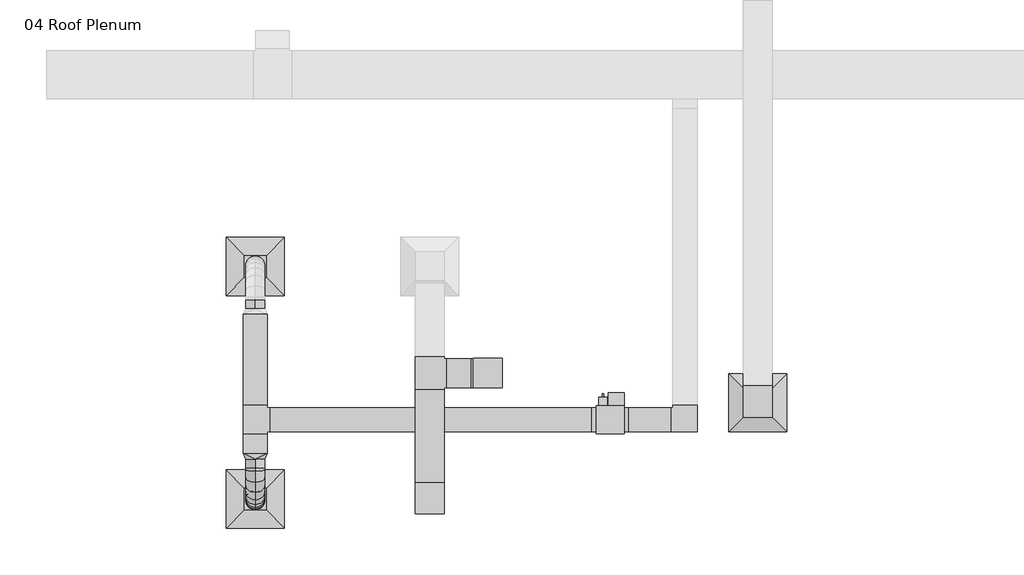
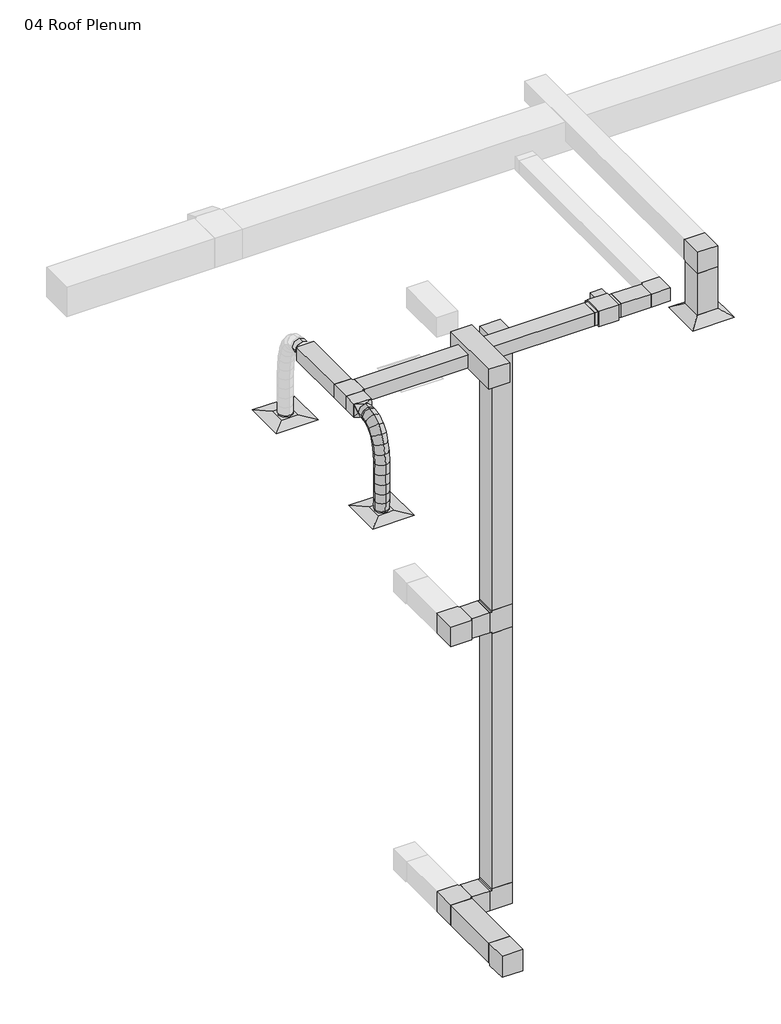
# One storey, part 1 of 9: 14 duct segments, 9 duct fittings, 3 air terminals, 1 proxy.
"""IFC4 building model written with IfcOpenShell, lengths in millimetres."""

from ifc_helpers import new_model, si_unit, point, frame, frame_2d, origin, place, context, project, spatial, polyline, circle_curve, ellipse_curve, trimmed, segment, composite_curve, outline, extrude, transform, mapped, element, save
from ifc_brep_helpers import plane_surface, cylinder_surface, advanced_brep
from components import return_diffuser_d30_returndiffuser_24x24_12x12_connection_ff543d60, supply_diffuser_rectangular_face_round_neck_d30_6390248a, supply_diffuser_rectangular_face_round_neck_d30_79c6f163, bcn6785_vav_d30_vav1_8c327968, rectangular_elbow_mitered_standard_f09b78ec, rectangular_elbow_mitered_standard_4ff1c4e8, rectangular_tee_standard_578867ac, rectangular_tee_standard_b316833c, rectangular_to_round_transition_angle_45_degree_e9430680

model = new_model("IFC4")

# Units and contexts
model_context = context("Model", 3, world=origin())
ifc_project = project(units=[si_unit("LENGTHUNIT", "METRE", prefix="MILLI")], contexts=[model_context])

# Site, building, storey
site = spatial("IfcSite", under=ifc_project)
building = spatial("IfcBuilding", under=site)
storey = spatial("IfcBuildingStorey", under=building, Name="04 Roof Plenum", Elevation=12192.0)

# Air terminals
placement = place(None, origin())
return_diffuser_d30_returndiffuser_24x24_12x12_connection_shape = return_diffuser_d30_returndiffuser_24x24_12x12_connection_ff543d60(model_context)
element("IfcAirTerminal", 1, ObjectType="Return Diffuser : D30_ReturnDiffuser_24x24 12x12 Connection", at=placement, inside=storey, context=model_context, shape_type="MappedRepresentation", body=[
    mapped(return_diffuser_d30_returndiffuser_24x24_12x12_connection_shape, transform((-9486.0382699, -4795.2453325, 12192.0), x_axis=(1.0, 0.0, 0.0), y_axis=(0.0, 1.0, 0.0), z_axis=(0.0, 0.0, 1.0))),
])
supply_diffuser_rectangular_face_round_neck_d30_shape = supply_diffuser_rectangular_face_round_neck_d30_6390248a(model_context)
element("IfcAirTerminal", 2, ObjectType="Supply Diffuser - Rectangular Face Round Neck : D30_SupplyDiffuser_24x24 8 Neck", at=placement, inside=storey, context=model_context, shape_type="MappedRepresentation", body=[
    mapped(supply_diffuser_rectangular_face_round_neck_d30_shape, transform((-14752.4292617, -5803.3078325, 11582.4), x_axis=(1.0, 0.0, 0.0), y_axis=(0.0, 1.0, 0.0), z_axis=(0.0, 0.0, 1.0))),
])
supply_diffuser_rectangular_face_round_neck_d30_2_shape = supply_diffuser_rectangular_face_round_neck_d30_79c6f163(model_context)
element("IfcAirTerminal", 3, ObjectType="Supply Diffuser - Rectangular Face Round Neck : D30_SupplyDiffuser_24x24 8 Neck", at=placement, inside=storey, context=model_context, shape_type="MappedRepresentation", body=[
    mapped(supply_diffuser_rectangular_face_round_neck_d30_2_shape, transform((-14752.4292617, -3364.9078325, 11582.4), x_axis=(1.0, 0.0, 0.0), y_axis=(0.0, 1.0, 0.0), z_axis=(0.0, 0.0, 1.0))),
])

# Proxy
bcn6785_vav_d30_vav1_shape = bcn6785_vav_d30_vav1_8c327968(model_context)
element("IfcBuildingElementProxy", 4, Name="BCN6785_VAV : D30_VAV1", ObjectType="BCN6785_VAV : D30_VAV1", at=placement, inside=storey, context=model_context, shape_type="MappedRepresentation", body=[
    mapped(bcn6785_vav_d30_vav1_shape, transform((-10885.1038818, -4973.0453325, 12757.15), x_axis=(-1.0, 0.0, 0.0), y_axis=(0.0, -1.0, 0.0), z_axis=(0.0, 0.0, 1.0))),
])

# Duct fittings
rectangular_elbow_mitered_standard_shape = rectangular_elbow_mitered_standard_f09b78ec(model_context)
element("IfcDuctFitting", 5, ObjectType="Rectangular Elbow - Mitered : Standard", at=placement, inside=storey, context=model_context, shape_type="MappedRepresentation", body=[
    mapped(rectangular_elbow_mitered_standard_shape, transform((-10246.0481813, -4973.0453325, 12877.8), x_axis=(1.0, 0.0, 0.0), y_axis=(0.0, 1.0, 0.0), z_axis=(0.0, 0.0, 1.0))),
])
rectangular_elbow_mitered_standard_2_shape = rectangular_elbow_mitered_standard_4ff1c4e8(model_context)
element("IfcDuctFitting", 6, ObjectType="Rectangular Elbow - Mitered : Standard", at=placement, inside=storey, context=model_context, shape_type="MappedRepresentation", body=[
    mapped(rectangular_elbow_mitered_standard_2_shape, transform((-9486.0382699, -4795.2453325, 13112.75), x_axis=(0.0, 0.0, 1.0), y_axis=(0.0, 1.0, 0.0), z_axis=(-1.0, 0.0, 0.0))),
])
element("IfcDuctFitting", 7, ObjectType="Rectangular Elbow - Mitered : Standard", at=placement, inside=storey, context=model_context, shape_type="MappedRepresentation", body=[
    mapped(rectangular_elbow_mitered_standard_2_shape, transform((-12923.6292617, -5803.3078325, 4038.6), x_axis=(0.0, -1.0, 0.0), y_axis=(0.0, 0.0, -1.0), z_axis=(1.0, 0.0, 0.0))),
])
element("IfcDuctFitting", 8, ObjectType="Rectangular Elbow - Mitered : Standard", at=placement, inside=storey, context=model_context, shape_type="MappedRepresentation", body=[
    mapped(rectangular_elbow_mitered_standard_2_shape, transform((-12314.0292617, -4482.5078325, 4038.6), x_axis=(1.0, 0.0, 0.0), y_axis=(0.0, 0.0, 1.0), z_axis=(0.0, -1.0, 0.0))),
])
rectangular_tee_standard_shape = rectangular_tee_standard_578867ac(model_context)
element("IfcDuctFitting", 9, ObjectType="Rectangular Tee : Standard", at=placement, inside=storey, context=model_context, shape_type="MappedRepresentation", body=[
    mapped(rectangular_tee_standard_shape, transform((-12923.6292617, -4482.5078325, 4038.6), x_axis=(0.0, 1.0, 0.0), y_axis=(-1.0, 0.0, 0.0), z_axis=(0.0, 0.0, 1.0))),
])
element("IfcDuctFitting", 10, ObjectType="Rectangular Tee : Standard", at=placement, inside=storey, context=model_context, shape_type="MappedRepresentation", body=[
    mapped(rectangular_tee_standard_shape, transform((-12923.6292617, -4482.5078325, 8343.9), x_axis=(0.0, 1.0, 0.0), y_axis=(-1.0, 0.0, 0.0), z_axis=(0.0, 0.0, 1.0))),
])
element("IfcDuctFitting", 11, ObjectType="Rectangular Tee : Standard", at=placement, inside=storey, context=model_context, shape_type="MappedRepresentation", body=[
    mapped(rectangular_tee_standard_shape, transform((-12314.0292617, -4482.5078325, 8343.9), x_axis=(0.0, 0.0, 1.0), y_axis=(1.0, 0.0, 0.0), z_axis=(0.0, 1.0, 0.0))),
])
rectangular_tee_standard_2_shape = rectangular_tee_standard_b316833c(model_context)
element("IfcDuctFitting", 12, ObjectType="Rectangular Tee : Standard", at=placement, inside=storey, context=model_context, shape_type="MappedRepresentation", body=[
    mapped(rectangular_tee_standard_2_shape, transform((-14752.2538818, -4973.0453325, 12877.8), x_axis=(0.0, 1.0, 0.0), y_axis=(-1.0, 0.0, 0.0), z_axis=(0.0, 0.0, 1.0))),
])
rectangular_to_round_transition_angle_45_degree_shape = rectangular_to_round_transition_angle_45_degree_e9430680(model_context)
element("IfcDuctFitting", 13, ObjectType="Rectangular to Round Transition - Angle : 45 Degree", at=placement, inside=storey, context=model_context, shape_type="MappedRepresentation", body=[
    mapped(rectangular_to_round_transition_angle_45_degree_shape, transform((-14752.2538818, -5325.9690683, 12877.8), x_axis=(0.0, -1.0, 0.0), y_axis=(1.0, 0.0, 0.0), z_axis=(0.0, 0.0, 1.0))),
])

# Duct segments
element("IfcDuctSegment", 14, ObjectType="Flex - Round", at=placement, inside=storey, context=model_context, shape_type="AdvancedBrep", body=[
    advanced_brep(
    [(-14650.6538818, -5478.3690683, 12877.8), (-14752.2538818, -5478.3690683, 12776.2), (-14853.8538818, -5478.3690683, 12877.8), (-14752.2538818, -5478.3690683, 12979.4), (-14650.6538818, -5496.8874374, 12877.8), (-14752.2538818, -5485.5715, 12776.2), (-14853.8538818, -5496.8826417, 12877.8), (-14752.2538818, -5508.1985791, 12979.4), (-14650.8292636, -5803.3275846, 11636.3713618), (-14752.4490712, -5904.8939325, 11634.6945569), (-14854.0292597, -5803.2880804, 11636.3786382), (-14752.4094521, -5701.7217325, 11638.0554431), (-14650.6579668, -5582.357861, 12858.5261085), (-14752.2565507, -5541.414085, 12763.6072939), (-14853.8579662, -5582.3408154, 12858.5288709), (-14752.2593823, -5623.2845914, 12953.4476855), (-14650.6691677, -5662.8907133, 12804.309572), (-14752.2634369, -5590.9244035, 12730.2758284), (-14853.8691654, -5662.8614121, 12804.3205851), (-14752.2748962, -5734.8277219, 12878.3543287), (-14650.6859029, -5722.8223549, 12720.5603195), (-14752.2751305, -5632.8012975, 12671.7565141), (-14853.8858987, -5722.7864412, 12720.5805731), (-14752.2966711, -5812.8074985, 12769.3843786), (-14650.7065906, -5765.0086639, 12612.6880611), (-14752.2920943, -5667.3937586, 12583.3020607), (-14853.9065853, -5764.9703373, 12612.7144845), (-14752.3210816, -5862.5852425, 12642.100485), (-14650.7296499, -5792.3060222, 12486.1004854), (-14752.3127602, -5691.8579176, 12469.8530398), (-14853.929644, -5792.2670311, 12486.1299901), (-14752.3465337, -5892.7151358, 12502.3774356), (-14650.7534995, -5807.5701681, 12346.2049028), (-14752.3351346, -5706.1778652, 12338.6110146), (-14853.9534935, -5807.5310972, 12346.2351388), (-14752.3718584, -5908.9234001, 12353.8290271), (-14650.7765584, -5813.6564861, 12198.4087702), (-14752.3573202, -5712.0336894, 12196.4120439), (-14853.9765525, -5813.6174636, 12198.4378334), (-14752.3957907, -5915.2402603, 12200.4345597), (-14650.7972453, -5813.4202232, 12048.1197391), (-14752.3775438, -5711.8027181, 12049.4890559), (-14853.9972399, -5813.3811959, 12048.1457819), (-14752.4169415, -5914.9987011, 12046.7764651), (-14650.8139793, -5809.7165725, 11900.7456667), (-14752.3941082, -5708.1365965, 11903.6083267), (-14854.0139745, -5809.6774139, 11900.7664864), (-14752.4338455, -5911.2573899, 11897.9038265), (-14650.825179, -5805.4006916, 11761.694714), (-14752.4053434, -5703.8070551, 11764.1172552), (-14854.0251749, -5805.3612726, 11761.7071456), (-14752.4450105, -5906.9549091, 11759.2846045)],
    [
        (0, 1, circle_curve(frame((-14752.2538818, -5478.3690683, 12877.8), z_axis=(0.0, 1.0, 0.0), x_axis=(1.0, 0.0, 0.0)), 101.6)),
        (1, 2, circle_curve(frame((-14752.2538818, -5478.3690683, 12877.8), z_axis=(0.0, 1.0, 0.0), x_axis=(1.0, 0.0, 0.0)), 101.6)),
        (2, 3, circle_curve(frame((-14752.2538818, -5478.3690683, 12877.8), z_axis=(0.0, 1.0, 0.0), x_axis=(1.0, 0.0, 0.0)), 101.6)),
        (3, 0, circle_curve(frame((-14752.2538818, -5478.3690683, 12877.8), z_axis=(0.0, 1.0, 0.0), x_axis=(1.0, 0.0, 0.0)), 101.6)),
        (0, 4),
        (4, 5, ellipse_curve(frame((-14752.2538818, -5496.8850395, 12877.8), z_axis=(2.3455999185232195e-05, 0.993857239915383, 0.11066971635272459), x_axis=(-0.00021064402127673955, 0.1106697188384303, -0.9938572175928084)), 102.2279618, 101.6)),
        (5, 1),
        (5, 6, ellipse_curve(frame((-14752.2538818, -5496.8850395, 12877.8), z_axis=(2.3455999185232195e-05, 0.993857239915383, 0.11066971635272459), x_axis=(-0.00021064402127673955, 0.1106697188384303, -0.9938572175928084)), 102.2279618, 101.6)),
        (6, 2),
        (6, 7, ellipse_curve(frame((-14752.2538818, -5496.8850395, 12877.8), z_axis=(2.3455999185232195e-05, 0.993857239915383, 0.11066971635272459), x_axis=(-0.00021064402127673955, 0.1106697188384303, -0.9938572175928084)), 102.2279618, 101.6)),
        (7, 3),
        (7, 4, ellipse_curve(frame((-14752.2538818, -5496.8850395, 12877.8), z_axis=(2.3455999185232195e-05, 0.993857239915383, 0.11066971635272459), x_axis=(-0.00021064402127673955, 0.1106697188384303, -0.9938572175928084)), 102.2279618, 101.6)),
        (8, 9, circle_curve(frame((-14752.4292617, -5803.3078325, 11636.375), z_axis=(-3.258840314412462e-05, 0.01653980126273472, -0.9998632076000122), x_axis=(0.9999999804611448, -0.00019441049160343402, -3.580881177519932e-05)), 101.6)),
        (9, 10, circle_curve(frame((-14752.4292617, -5803.3078325, 11636.375), z_axis=(-3.258840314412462e-05, 0.01653980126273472, -0.9998632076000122), x_axis=(0.9999999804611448, -0.00019441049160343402, -3.580881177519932e-05)), 101.6)),
        (10, 11, circle_curve(frame((-14752.4292617, -5803.3078325, 11636.375), z_axis=(-3.258840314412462e-05, 0.01653980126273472, -0.9998632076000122), x_axis=(0.9999999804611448, -0.00019441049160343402, -3.580881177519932e-05)), 101.6)),
        (11, 8, circle_curve(frame((-14752.4292617, -5803.3078325, 11636.375), z_axis=(-3.258840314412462e-05, 0.01653980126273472, -0.9998632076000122), x_axis=(0.9999999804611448, -0.00019441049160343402, -3.580881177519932e-05)), 101.6)),
        (4, 12),
        (12, 13, ellipse_curve(frame((-14752.2579665, -5582.3493382, 12858.5274897), z_axis=(8.241148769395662e-05, 0.9182488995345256, 0.39600372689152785), x_axis=(-0.00018651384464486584, 0.39600373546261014, -0.9182488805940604)), 103.3708786, 101.6)),
        (13, 5),
        (13, 14, ellipse_curve(frame((-14752.2579665, -5582.3493382, 12858.5274897), z_axis=(8.241148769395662e-05, 0.9182488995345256, 0.39600372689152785), x_axis=(-0.00018651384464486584, 0.39600373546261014, -0.9182488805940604)), 103.3708786, 101.6)),
        (14, 6),
        (14, 15, ellipse_curve(frame((-14752.2579665, -5582.3493382, 12858.5274897), z_axis=(8.241148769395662e-05, 0.9182488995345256, 0.39600372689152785), x_axis=(-0.00018651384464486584, 0.39600373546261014, -0.9182488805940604)), 103.3708786, 101.6)),
        (15, 7),
        (15, 12, ellipse_curve(frame((-14752.2579665, -5582.3493382, 12858.5274897), z_axis=(8.241148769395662e-05, 0.9182488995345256, 0.39600372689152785), x_axis=(-0.00018651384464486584, 0.39600373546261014, -0.9182488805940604)), 103.3708786, 101.6)),
        (12, 16),
        (16, 17, ellipse_curve(frame((-14752.2691666, -5662.8760627, 12804.3150785), z_axis=(0.00014118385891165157, 0.7171446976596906, 0.6969242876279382), x_axis=(-0.00013265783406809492, 0.696924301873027, -0.717144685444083)), 103.2417158, 101.6)),
        (17, 13),
        (17, 18, ellipse_curve(frame((-14752.2691666, -5662.8760627, 12804.3150785), z_axis=(0.00014118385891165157, 0.7171446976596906, 0.6969242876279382), x_axis=(-0.00013265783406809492, 0.696924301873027, -0.717144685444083)), 103.2417158, 101.6)),
        (18, 14),
        (18, 19, ellipse_curve(frame((-14752.2691666, -5662.8760627, 12804.3150785), z_axis=(0.00014118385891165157, 0.7171446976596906, 0.6969242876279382), x_axis=(-0.00013265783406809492, 0.696924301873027, -0.717144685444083)), 103.2417158, 101.6)),
        (19, 15),
        (19, 16, ellipse_curve(frame((-14752.2691666, -5662.8760627, 12804.3150785), z_axis=(0.00014118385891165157, 0.7171446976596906, 0.6969242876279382), x_axis=(-0.00013265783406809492, 0.696924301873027, -0.717144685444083)), 103.2417158, 101.6)),
        (16, 20),
        (20, 21, ellipse_curve(frame((-14752.2859008, -5722.804398, 12720.5704463), z_axis=(0.0001718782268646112, 0.4767531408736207, 0.8790372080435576), x_axis=(-6.502204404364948e-05, 0.8790372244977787, -0.4767531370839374)), 102.3882718, 101.6)),
        (21, 17),
        (21, 22, ellipse_curve(frame((-14752.2859008, -5722.804398, 12720.5704463), z_axis=(0.0001718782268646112, 0.4767531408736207, 0.8790372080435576), x_axis=(-6.502204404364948e-05, 0.8790372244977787, -0.4767531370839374)), 102.3882718, 101.6)),
        (22, 18),
        (22, 23, ellipse_curve(frame((-14752.2859008, -5722.804398, 12720.5704463), z_axis=(0.0001718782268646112, 0.4767531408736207, 0.8790372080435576), x_axis=(-6.502204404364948e-05, 0.8790372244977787, -0.4767531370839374)), 102.3882718, 101.6)),
        (23, 19),
        (23, 20, ellipse_curve(frame((-14752.2859008, -5722.804398, 12720.5704463), z_axis=(0.0001718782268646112, 0.4767531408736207, 0.8790372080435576), x_axis=(-6.502204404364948e-05, 0.8790372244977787, -0.4767531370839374)), 102.3882718, 101.6)),
        (20, 24),
        (24, 25, ellipse_curve(frame((-14752.306588, -5764.9895006, 12612.7012728), z_axis=(0.00017891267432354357, 0.28843217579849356, 0.9575003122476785), x_axis=(3.3733718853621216e-06, 0.9575003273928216, -0.2884321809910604)), 101.9276348, 101.6)),
        (25, 21),
        (25, 26, ellipse_curve(frame((-14752.306588, -5764.9895006, 12612.7012728), z_axis=(0.00017891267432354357, 0.28843217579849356, 0.9575003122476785), x_axis=(3.3733718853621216e-06, 0.9575003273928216, -0.2884321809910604)), 101.9276348, 101.6)),
        (26, 22),
        (26, 27, ellipse_curve(frame((-14752.306588, -5764.9895006, 12612.7012728), z_axis=(0.00017891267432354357, 0.28843217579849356, 0.9575003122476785), x_axis=(3.3733718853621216e-06, 0.9575003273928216, -0.2884321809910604)), 101.9276348, 101.6)),
        (27, 23),
        (27, 24, ellipse_curve(frame((-14752.306588, -5764.9895006, 12612.7012728), z_axis=(0.00017891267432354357, 0.28843217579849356, 0.9575003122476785), x_axis=(3.3733718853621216e-06, 0.9575003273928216, -0.2884321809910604)), 101.9276348, 101.6)),
        (24, 28),
        (28, 29, ellipse_curve(frame((-14752.3296469, -5792.2865267, 12486.1152377), z_axis=(0.00017400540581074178, 0.15984583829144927, 0.9871419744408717), x_axis=(8.288209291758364e-05, 0.987141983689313, -0.1598458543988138)), 101.7367431, 101.6)),
        (29, 25),
        (29, 30, ellipse_curve(frame((-14752.3296469, -5792.2865267, 12486.1152377), z_axis=(0.00017400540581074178, 0.15984583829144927, 0.9871419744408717), x_axis=(8.288209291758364e-05, 0.987141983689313, -0.1598458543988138)), 101.7367431, 101.6)),
        (30, 26),
        (30, 31, ellipse_curve(frame((-14752.3296469, -5792.2865267, 12486.1152377), z_axis=(0.00017400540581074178, 0.15984583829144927, 0.9871419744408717), x_axis=(8.288209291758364e-05, 0.987141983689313, -0.1598458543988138)), 101.7367431, 101.6)),
        (31, 27),
        (31, 28, ellipse_curve(frame((-14752.3296469, -5792.2865267, 12486.1152377), z_axis=(0.00017400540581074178, 0.15984583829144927, 0.9871419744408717), x_axis=(8.288209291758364e-05, 0.987141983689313, -0.1598458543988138)), 101.7367431, 101.6)),
        (28, 32),
        (32, 33, ellipse_curve(frame((-14752.3534965, -5807.5506327, 12346.2200208), z_axis=(0.00016277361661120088, 0.07484908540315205, 0.9971948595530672), x_axis=(0.00020129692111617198, 0.9971948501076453, -0.07484911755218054)), 101.6579327, 101.6)),
        (33, 29),
        (33, 34, ellipse_curve(frame((-14752.3534965, -5807.5506327, 12346.2200208), z_axis=(0.00016277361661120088, 0.07484908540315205, 0.9971948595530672), x_axis=(0.00020129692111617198, 0.9971948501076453, -0.07484911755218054)), 101.6579327, 101.6)),
        (34, 30),
        (34, 35, ellipse_curve(frame((-14752.3534965, -5807.5506327, 12346.2200208), z_axis=(0.00016277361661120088, 0.07484908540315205, 0.9971948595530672), x_axis=(0.00020129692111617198, 0.9971948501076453, -0.07484911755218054)), 101.6579327, 101.6)),
        (35, 31),
        (35, 32, ellipse_curve(frame((-14752.3534965, -5807.5506327, 12346.2200208), z_axis=(0.00016277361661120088, 0.07484908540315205, 0.9971948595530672), x_axis=(0.00020129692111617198, 0.9971948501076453, -0.07484911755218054)), 101.6579327, 101.6)),
        (32, 36),
        (36, 37, ellipse_curve(frame((-14752.3765555, -5813.6369748, 12198.4233018), z_axis=(0.00014680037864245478, 0.019791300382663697, 0.9998041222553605), x_axis=(0.0004268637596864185, 0.9998040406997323, -0.019791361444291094)), 101.623192, 101.6)),
        (37, 33),
        (37, 38, ellipse_curve(frame((-14752.3765555, -5813.6369748, 12198.4233018), z_axis=(0.00014680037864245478, 0.019791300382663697, 0.9998041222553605), x_axis=(0.0004268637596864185, 0.9998040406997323, -0.019791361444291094)), 101.623192, 101.6)),
        (38, 34),
        (38, 39, ellipse_curve(frame((-14752.3765555, -5813.6369748, 12198.4233018), z_axis=(0.00014680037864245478, 0.019791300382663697, 0.9998041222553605), x_axis=(0.0004268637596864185, 0.9998040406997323, -0.019791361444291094)), 101.623192, 101.6)),
        (39, 35),
        (39, 36, ellipse_curve(frame((-14752.3765555, -5813.6369748, 12198.4233018), z_axis=(0.00014680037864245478, 0.019791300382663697, 0.9998041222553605), x_axis=(0.0004268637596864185, 0.9998040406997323, -0.019791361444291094)), 101.623192, 101.6)),
        (36, 40),
        (40, 41, ellipse_curve(frame((-14752.3972426, -5813.4007096, 12048.1327605), z_axis=(0.00012558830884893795, -0.013348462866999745, 0.999910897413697), x_axis=(0.0010247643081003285, 0.9999103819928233, 0.013348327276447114)), 101.607046, 101.6)),
        (41, 37),
        (41, 42, ellipse_curve(frame((-14752.3972426, -5813.4007096, 12048.1327605), z_axis=(0.00012558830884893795, -0.013348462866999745, 0.999910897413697), x_axis=(0.0010247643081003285, 0.9999103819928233, 0.013348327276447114)), 101.607046, 101.6)),
        (42, 38),
        (42, 43, ellipse_curve(frame((-14752.3972426, -5813.4007096, 12048.1327605), z_axis=(0.00012558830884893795, -0.013348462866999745, 0.999910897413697), x_axis=(0.0010247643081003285, 0.9999103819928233, 0.013348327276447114)), 101.607046, 101.6)),
        (43, 39),
        (43, 40, ellipse_curve(frame((-14752.3972426, -5813.4007096, 12048.1327605), z_axis=(0.00012558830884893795, -0.013348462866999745, 0.999910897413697), x_axis=(0.0010247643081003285, 0.9999103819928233, 0.013348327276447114)), 101.607046, 101.6)),
        (40, 44),
        (44, 45, ellipse_curve(frame((-14752.4139769, -5809.6969932, 11900.7560766), z_axis=(9.700878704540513e-05, -0.028073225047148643, 0.9996058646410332), x_axis=(0.005591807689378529, 0.9995902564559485, 0.028072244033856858)), 101.6004425, 101.6)),
        (45, 41),
        (45, 46, ellipse_curve(frame((-14752.4139769, -5809.6969932, 11900.7560766), z_axis=(9.700878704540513e-05, -0.028073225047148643, 0.9996058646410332), x_axis=(0.005591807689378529, 0.9995902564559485, 0.028072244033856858)), 101.6004425, 101.6)),
        (46, 42),
        (46, 47, ellipse_curve(frame((-14752.4139769, -5809.6969932, 11900.7560766), z_axis=(9.700878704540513e-05, -0.028073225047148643, 0.9996058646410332), x_axis=(0.005591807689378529, 0.9995902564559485, 0.028072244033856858)), 101.6004425, 101.6)),
        (47, 43),
        (47, 44, ellipse_curve(frame((-14752.4139769, -5809.6969932, 11900.7560766), z_axis=(9.700878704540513e-05, -0.028073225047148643, 0.9996058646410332), x_axis=(0.005591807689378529, 0.9995902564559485, 0.028072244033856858)), 101.6004425, 101.6)),
        (44, 48),
        (48, 49, ellipse_curve(frame((-14752.4251769, -5805.3809821, 11761.7009298), z_axis=(5.654833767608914e-05, -0.023782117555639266, 0.9997171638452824), x_axis=(0.0033074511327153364, -0.9997116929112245, -0.02378217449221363)), 101.6026657, 101.6)),
        (49, 45),
        (49, 50, ellipse_curve(frame((-14752.4251769, -5805.3809821, 11761.7009298), z_axis=(5.654833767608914e-05, -0.023782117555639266, 0.9997171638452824), x_axis=(0.0033074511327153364, -0.9997116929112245, -0.02378217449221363)), 101.6026657, 101.6)),
        (50, 46),
        (50, 51, ellipse_curve(frame((-14752.4251769, -5805.3809821, 11761.7009298), z_axis=(5.654833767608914e-05, -0.023782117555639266, 0.9997171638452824), x_axis=(0.0033074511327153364, -0.9997116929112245, -0.02378217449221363)), 101.6026657, 101.6)),
        (51, 47),
        (51, 48, ellipse_curve(frame((-14752.4251769, -5805.3809821, 11761.7009298), z_axis=(5.654833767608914e-05, -0.023782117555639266, 0.9997171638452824), x_axis=(0.0033074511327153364, -0.9997116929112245, -0.02378217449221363)), 101.6026657, 101.6)),
        (48, 8),
        (11, 49),
        (10, 50),
        (9, 51),
    ],
    [
        plane_surface(frame((-14853.8538818, -5478.3690683, 12877.8), z_axis=(0.0, 1.0, 0.0), x_axis=(0.0, 0.0, -1.0))),
        cylinder_surface(frame((-14752.2538818, -5478.3690683, 12877.8), z_axis=(0.0, 1.0, 0.0), x_axis=(1.0, 0.0, 0.0)), 101.6),
        plane_surface(frame((-14752.4292617, -5701.7217306, 11638.0554438), z_axis=(-3.2588403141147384e-05, 0.016539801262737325, -0.9998632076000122), x_axis=(0.999999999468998, 5.390057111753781e-07, -3.2583945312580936e-05))),
        cylinder_surface(frame((-14752.2538818, -5496.8850395, 12877.8), z_axis=(4.66238292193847e-05, 0.9755044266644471, 0.21997979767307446), x_axis=(0.9999999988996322, -4.66238292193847e-05, -5.191737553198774e-06)), 101.6),
        cylinder_surface(frame((-14752.2579665, -5582.3493382, 12858.5274897), z_axis=(0.00011537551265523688, 0.8295317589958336, 0.5584595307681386), x_axis=(0.9999999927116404, -0.00011557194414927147, -3.4926279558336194e-05)), 101.6),
        cylinder_surface(frame((-14752.2691666, -5662.8760627, 12804.3150785), z_axis=(0.0001625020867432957, 0.5819500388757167, 0.8132245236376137), x_axis=(0.9999999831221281, -0.00016428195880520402, -8.226288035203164e-05)), 101.6),
        cylinder_surface(frame((-14752.2859008, -5722.804398, 12720.5704463), z_axis=(0.00017860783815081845, 0.36421534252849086, 0.9313147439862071), x_axis=(0.999999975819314, -0.00018453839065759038, -0.00011961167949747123)), 101.6),
        cylinder_surface(frame((-14752.306588, -5764.9895006, 12612.7012728), z_axis=(0.00017806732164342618, 0.21079474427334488, 0.9775303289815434), x_axis=(0.9999999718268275, -0.000190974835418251, -0.0001409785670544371)), 101.6),
        cylinder_surface(frame((-14752.3296469, -5792.2865267, 12486.1152377), z_axis=(0.0001694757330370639, 0.10846723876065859, 0.9941000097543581), x_axis=(0.9999999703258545, -0.0001923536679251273, -0.00014949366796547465)), 101.6),
        cylinder_surface(frame((-14752.3534965, -5807.5506327, 12346.2200208), z_axis=(0.00015588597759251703, 0.04114562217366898, 0.9991531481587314), x_axis=(0.999999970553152, -0.00019224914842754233, -0.00014810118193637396)), 101.6),
        cylinder_surface(frame((-14752.3765555, -5813.6369748, 12198.4233018), z_axis=(0.00013764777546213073, -0.0015720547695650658, 0.9999987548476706), x_axis=(0.9999999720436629, -0.00019204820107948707, -0.00013794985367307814)), 101.6),
        cylinder_surface(frame((-14752.3972426, -5813.4007096, 12048.1327605), z_axis=(0.00011351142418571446, -0.02512301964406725, 0.9996843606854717), x_axis=(0.9999999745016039, -0.0001923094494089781, -0.00011838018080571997)), 101.6),
        cylinder_surface(frame((-14752.4139769, -5809.6969932, 11900.7560766), z_axis=(8.050530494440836e-05, -0.03102318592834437, 0.9995186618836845), x_axis=(0.9999999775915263, -0.0001932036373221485, -8.654075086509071e-05)), 101.6),
        cylinder_surface(frame((-14752.4251769, -5805.3809821, 11761.7009298), z_axis=(3.258840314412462e-05, -0.01653980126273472, 0.9998632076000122), x_axis=(0.9999999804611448, -0.00019441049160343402, -3.580881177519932e-05)), 101.6),
    ],
    [
        (0, [[1, 2, 3, 4]]),
        (1, [[-1, 5, 6, 7]]),
        (1, [[-2, -7, 8, 9]]),
        (1, [[-3, -9, 10, 11]]),
        (1, [[-4, -11, 12, -5]]),
        (2, [[13, 14, 15, 16]]),
        (3, [[-6, 17, 18, 19]]),
        (3, [[-8, -19, 20, 21]]),
        (3, [[-10, -21, 22, 23]]),
        (3, [[-12, -23, 24, -17]]),
        (4, [[-18, 25, 26, 27]]),
        (4, [[-20, -27, 28, 29]]),
        (4, [[-22, -29, 30, 31]]),
        (4, [[-24, -31, 32, -25]]),
        (5, [[-26, 33, 34, 35]]),
        (5, [[-28, -35, 36, 37]]),
        (5, [[-30, -37, 38, 39]]),
        (5, [[-32, -39, 40, -33]]),
        (6, [[-34, 41, 42, 43]]),
        (6, [[-36, -43, 44, 45]]),
        (6, [[-38, -45, 46, 47]]),
        (6, [[-40, -47, 48, -41]]),
        (7, [[-42, 49, 50, 51]]),
        (7, [[-44, -51, 52, 53]]),
        (7, [[-46, -53, 54, 55]]),
        (7, [[-48, -55, 56, -49]]),
        (8, [[-50, 57, 58, 59]]),
        (8, [[-52, -59, 60, 61]]),
        (8, [[-54, -61, 62, 63]]),
        (8, [[-56, -63, 64, -57]]),
        (9, [[-58, 65, 66, 67]]),
        (9, [[-60, -67, 68, 69]]),
        (9, [[-62, -69, 70, 71]]),
        (9, [[-64, -71, 72, -65]]),
        (10, [[-66, 73, 74, 75]]),
        (10, [[-68, -75, 76, 77]]),
        (10, [[-70, -77, 78, 79]]),
        (10, [[-72, -79, 80, -73]]),
        (11, [[-74, 81, 82, 83]]),
        (11, [[-76, -83, 84, 85]]),
        (11, [[-78, -85, 86, 87]]),
        (11, [[-80, -87, 88, -81]]),
        (12, [[-82, 89, 90, 91]]),
        (12, [[-84, -91, 92, 93]]),
        (12, [[-86, -93, 94, 95]]),
        (12, [[-88, -95, 96, -89]]),
        (13, [[-90, 97, -16, 98]]),
        (13, [[-92, -98, -15, 99]]),
        (13, [[-94, -99, -14, 100]]),
        (13, [[-96, -100, -13, -97]]),
    ],
),
])
element("IfcDuctSegment", 15, ObjectType="Mitered Elbows / Tees", at=placement, inside=storey, context=model_context, shape_type="SweptSolid", body=[
    extrude(outline(polyline([(-10398.4481813, -4846.0453325), (-10398.4481813, -5100.0453325), (-10834.3038818, -5100.0453325), (-10834.3038818, -4846.0453325), (-10398.4481813, -4846.0453325)])), frame((0.0, 0.0, 12776.2), z_axis=(0.0, 0.0, 1.0), x_axis=(1.0, 0.0, 0.0)), (0.0, 0.0, 1.0), 203.2),
])
element("IfcDuctSegment", 16, ObjectType="Mitered Elbows / Tees", at=placement, inside=storey, context=model_context, shape_type="SweptSolid", body=[
    extrude(outline(polyline([(-11228.0038818, -4846.0453325), (-11228.0038818, -5100.0453325), (-14599.8538818, -5100.0453325), (-14599.8538818, -4846.0453325), (-11228.0038818, -4846.0453325)])), frame((0.0, 0.0, 12776.2), z_axis=(0.0, 0.0, 1.0), x_axis=(1.0, 0.0, 0.0)), (0.0, 0.0, 1.0), 203.2),
])
element("IfcDuctSegment", 17, ObjectType="Mitered Elbows / Tees", at=placement, inside=storey, context=model_context, shape_type="SweptSolid", body=[
    extrude(outline(polyline([(-14879.2538818, -5125.4453325), (-14625.2538818, -5125.4453325), (-14625.2538818, -5325.9690683), (-14879.2538818, -5325.9690683), (-14879.2538818, -5125.4453325)])), frame((0.0, 0.0, 12776.2), z_axis=(0.0, 0.0, 1.0), x_axis=(1.0, 0.0, 0.0)), (0.0, 0.0, 1.0), 203.2),
])
element("IfcDuctSegment", 18, ObjectType="Mitered Elbows / Tees", at=placement, inside=storey, context=model_context, shape_type="SweptSolid", body=[
    extrude(outline(polyline([(-14879.2538818, -3867.6465968), (-14625.2538818, -3867.6465968), (-14625.2538818, -4820.6453325), (-14879.2538818, -4820.6453325), (-14879.2538818, -3867.6465968)])), frame((0.0, 0.0, 12776.2), z_axis=(0.0, 0.0, 1.0), x_axis=(1.0, 0.0, 0.0)), (0.0, 0.0, 1.0), 203.2),
])
element("IfcDuctSegment", 19, ObjectType="Mitered Elbows / Tees", at=placement, inside=storey, context=model_context, shape_type="SweptSolid", body=[
    extrude(outline(polyline([(-9638.4382699, -4642.8453325), (-9333.6382699, -4642.8453325), (-9333.6382699, -4947.6453325), (-9638.4382699, -4947.6453325), (-9638.4382699, -4642.8453325)])), frame((0.0, 0.0, 12293.6), z_axis=(0.0, 0.0, 1.0), x_axis=(1.0, 0.0, 0.0)), (0.0, 0.0, 1.0), 641.35),
])
element("IfcDuctSegment", 20, ObjectType="Mitered Elbows / Tees", at=placement, inside=storey, context=model_context, shape_type="SweptSolid", body=[
    extrude(outline(polyline([(-13076.0292617, -4660.3078325), (-12771.2292617, -4660.3078325), (-12771.2292617, -5625.5078325), (-13076.0292617, -5625.5078325), (-13076.0292617, -4660.3078325)])), frame((0.0, 0.0, 12763.5), z_axis=(0.0, 0.0, 1.0), x_axis=(1.0, 0.0, 0.0)), (0.0, 0.0, 1.0), 304.8),
])
element("IfcDuctSegment", 21, ObjectType="Mitered Elbows / Tees", at=placement, inside=storey, context=model_context, shape_type="SweptSolid", body=[
    extrude(outline(polyline([(-12466.4292617, -4330.1078325), (-12161.6292617, -4330.1078325), (-12161.6292617, -4634.9078325), (-12466.4292617, -4634.9078325), (-12466.4292617, -4330.1078325)])), frame((0.0, 0.0, 8521.7), z_axis=(0.0, 0.0, 1.0), x_axis=(1.0, 0.0, 0.0)), (0.0, 0.0, 1.0), 4216.4),
])
element("IfcDuctSegment", 22, ObjectType="Mitered Elbows / Tees", at=placement, inside=storey, context=model_context, shape_type="SweptSolid", body=[
    extrude(outline(polyline([(-12466.4292617, -4634.9078325), (-12466.4292617, -4330.1078325), (-12161.6292617, -4330.1078325), (-12161.6292617, -4634.9078325), (-12466.4292617, -4634.9078325)])), frame((0.0, 0.0, 4216.4), z_axis=(0.0, 0.0, 1.0), x_axis=(1.0, 0.0, 0.0)), (0.0, 0.0, 1.0), 3949.7),
])
element("IfcDuctSegment", 23, ObjectType="Mitered Elbows / Tees", at=placement, inside=storey, context=model_context, shape_type="SweptSolid", body=[
    extrude(outline(polyline([(-12745.8292617, -4634.9078325), (-12745.8292617, -4330.1078325), (-12491.8292617, -4330.1078325), (-12491.8292617, -4634.9078325), (-12745.8292617, -4634.9078325)])), frame((0.0, 0.0, 3886.2), z_axis=(0.0, 0.0, 1.0), x_axis=(1.0, 0.0, 0.0)), (0.0, 0.0, 1.0), 304.8),
])
element("IfcDuctSegment", 24, ObjectType="Mitered Elbows / Tees", at=placement, inside=storey, context=model_context, shape_type="SweptSolid", body=[
    extrude(outline(polyline([(-12771.2292617, -5625.5078325), (-13076.0292617, -5625.5078325), (-13076.0292617, -4660.3078325), (-12771.2292617, -4660.3078325), (-12771.2292617, -5625.5078325)])), frame((0.0, 0.0, 3886.2), z_axis=(0.0, 0.0, 1.0), x_axis=(1.0, 0.0, 0.0)), (0.0, 0.0, 1.0), 304.8),
])
element("IfcDuctSegment", 25, ObjectType="Mitered Elbows / Tees", at=placement, inside=storey, context=model_context, shape_type="SweptSolid", body=[
    extrude(outline(polyline([(-12745.8292617, -4634.9078325), (-12745.8292617, -4330.1078325), (-12491.8292617, -4330.1078325), (-12491.8292617, -4634.9078325), (-12745.8292617, -4634.9078325)])), frame((0.0, 0.0, 8191.5), z_axis=(0.0, 0.0, 1.0), x_axis=(1.0, 0.0, 0.0)), (0.0, 0.0, 1.0), 304.8),
])
element("IfcDuctSegment", 26, ObjectType="Taps", at=placement, inside=storey, context=model_context, shape_type="SweptSolid", body=[
    extrude(outline(composite_curve([segment(trimmed(circle_curve(frame_2d((12877.8, -14752.2538818)), 101.6), [point((12877.8, -14853.8538818))], [point((12776.2, -14752.2538818))], False, "CARTESIAN"), True, "CONTINUOUS"), segment(trimmed(circle_curve(frame_2d((12877.8, -14752.2538818)), 101.6), [point((12776.2, -14752.2538818))], [point((12877.8, -14650.6538818))], False, "CARTESIAN"), True, "CONTINUOUS"), segment(trimmed(circle_curve(frame_2d((12877.8, -14752.2538818)), 101.6), [point((12877.8, -14650.6538818))], [point((12979.4, -14752.2538818))], False, "CARTESIAN"), True, "CONTINUOUS"), segment(trimmed(circle_curve(frame_2d((12877.8, -14752.2538818)), 101.6), [point((12979.4, -14752.2538818))], [point((12877.8, -14853.8538818))], False, "CARTESIAN"), True, "CONTINUOUS")], self_intersect=False)), frame((0.0, -5478.3690683, 0.0), z_axis=(0.0, 1.0, 0.0), x_axis=(0.0, 0.0, 1.0)), (0.0, 0.0, 1.0), 91.0789755),
])
element("IfcDuctSegment", 27, ObjectType="Taps", at=placement, inside=storey, context=model_context, shape_type="SweptSolid", body=[
    extrude(outline(composite_curve([segment(trimmed(circle_curve(frame_2d((12877.8, -14752.2538818)), 101.6), [point((12877.8, -14650.6538818))], [point((12979.4, -14752.2538818))], False, "CARTESIAN"), True, "CONTINUOUS"), segment(trimmed(circle_curve(frame_2d((12877.8, -14752.2538818)), 101.6), [point((12979.4, -14752.2538818))], [point((12877.8, -14853.8538818))], False, "CARTESIAN"), True, "CONTINUOUS"), segment(trimmed(circle_curve(frame_2d((12877.8, -14752.2538818)), 101.6), [point((12877.8, -14853.8538818))], [point((12776.2, -14752.2538818))], False, "CARTESIAN"), True, "CONTINUOUS"), segment(trimmed(circle_curve(frame_2d((12877.8, -14752.2538818)), 101.6), [point((12776.2, -14752.2538818))], [point((12877.8, -14650.6538818))], False, "CARTESIAN"), True, "CONTINUOUS")], self_intersect=False)), frame((0.0, -3806.3255723, 0.0), z_axis=(0.0, 1.0, 0.0), x_axis=(0.0, 0.0, 1.0)), (0.0, 0.0, 1.0), 91.0789755),
])

save(model, "model.ifc")
